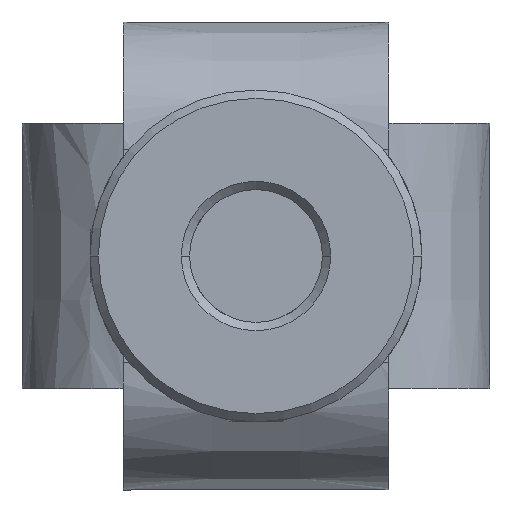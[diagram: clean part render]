
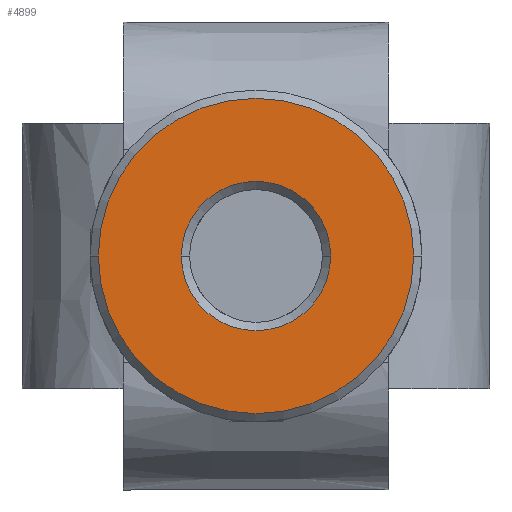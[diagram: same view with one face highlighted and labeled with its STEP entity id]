
A CAD part, front view. The second image highlights one B-rep face of the part: STEP entity #4899.
In plain terms, the highlighted planar face has unit normal (0, -1, 0).
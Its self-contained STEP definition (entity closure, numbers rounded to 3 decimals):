
#551 = AXIS2_PLACEMENT_3D ( 'NONE', #2943, #4165, #2369 ) ;
#692 = AXIS2_PLACEMENT_3D ( 'NONE', #3474, #7623, #3060 ) ;
#696 = CARTESIAN_POINT ( 'NONE',  ( -4.5, -35.24, 0. ) ) ;
#742 = AXIS2_PLACEMENT_3D ( 'NONE', #6160, #2597, #2006 ) ;
#778 = CIRCLE ( 'NONE', #551, 4.5 ) ;
#917 = VERTEX_POINT ( 'NONE', #3913 ) ;
#1239 = ORIENTED_EDGE ( 'NONE', *, *, #4478, .T. ) ;
#1625 = DIRECTION ( 'NONE',  ( 0., -1., 0. ) ) ;
#1718 = FACE_BOUND ( 'NONE', #3747, .T. ) ;
#1979 = CIRCLE ( 'NONE', #692, 9.5 ) ;
#2006 = DIRECTION ( 'NONE',  ( -1., 0., 0. ) ) ;
#2092 = CARTESIAN_POINT ( 'NONE',  ( 9.5, -35.24, 0. ) ) ;
#2133 = CARTESIAN_POINT ( 'NONE',  ( 0., -35.24, 0. ) ) ;
#2369 = DIRECTION ( 'NONE',  ( -1., 0., 0. ) ) ;
#2597 = DIRECTION ( 'NONE',  ( 0., 1., 0. ) ) ;
#2681 = DIRECTION ( 'NONE',  ( 0., -1., 0. ) ) ;
#2943 = CARTESIAN_POINT ( 'NONE',  ( 0., -35.24, 0. ) ) ;
#3060 = DIRECTION ( 'NONE',  ( -1., 0., 0. ) ) ;
#3186 = VERTEX_POINT ( 'NONE', #2092 ) ;
#3310 = EDGE_LOOP ( 'NONE', ( #3536, #6745 ) ) ;
#3359 = CIRCLE ( 'NONE', #742, 4.5 ) ;
#3447 = DIRECTION ( 'NONE',  ( -1., 0., 0. ) ) ;
#3474 = CARTESIAN_POINT ( 'NONE',  ( 0., -35.24, 0. ) ) ;
#3536 = ORIENTED_EDGE ( 'NONE', *, *, #5061, .T. ) ;
#3707 = EDGE_CURVE ( 'NONE', #5509, #3186, #4842, .T. ) ;
#3747 = EDGE_LOOP ( 'NONE', ( #1239, #4594 ) ) ;
#3913 = CARTESIAN_POINT ( 'NONE',  ( 4.5, -35.24, 0. ) ) ;
#4040 = VERTEX_POINT ( 'NONE', #696 ) ;
#4072 = EDGE_CURVE ( 'NONE', #917, #4040, #3359, .T. ) ;
#4165 = DIRECTION ( 'NONE',  ( 0., 1., 0. ) ) ;
#4478 = EDGE_CURVE ( 'NONE', #4040, #917, #778, .T. ) ;
#4594 = ORIENTED_EDGE ( 'NONE', *, *, #4072, .T. ) ;
#4842 = CIRCLE ( 'NONE', #6119, 9.5 ) ;
#4899 = ADVANCED_FACE ( 'NONE', ( #1718, #6681 ), #5800, .T. ) ;
#5061 = EDGE_CURVE ( 'NONE', #3186, #5509, #1979, .T. ) ;
#5127 = CARTESIAN_POINT ( 'NONE',  ( -9.5, -35.24, 0. ) ) ;
#5509 = VERTEX_POINT ( 'NONE', #5127 ) ;
#5649 = CARTESIAN_POINT ( 'NONE',  ( 0., -35.24, 0. ) ) ;
#5800 = PLANE ( 'NONE',  #6228 ) ;
#6119 = AXIS2_PLACEMENT_3D ( 'NONE', #5649, #2681, #6926 ) ;
#6160 = CARTESIAN_POINT ( 'NONE',  ( 0., -35.24, 0. ) ) ;
#6228 = AXIS2_PLACEMENT_3D ( 'NONE', #2133, #1625, #3447 ) ;
#6681 = FACE_OUTER_BOUND ( 'NONE', #3310, .T. ) ;
#6745 = ORIENTED_EDGE ( 'NONE', *, *, #3707, .T. ) ;
#6926 = DIRECTION ( 'NONE',  ( -1., 0., 0. ) ) ;
#7623 = DIRECTION ( 'NONE',  ( 0., -1., 0. ) ) ;
